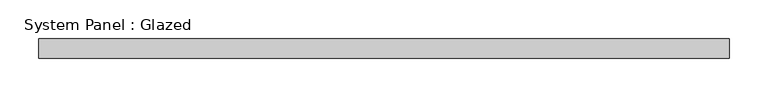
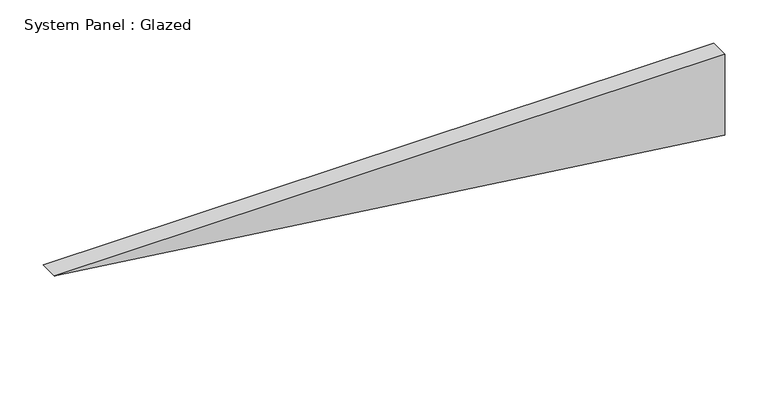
"""IFC4 building model written with IfcOpenShell, lengths in millimetres: plate geometry, System Panel : Glazed."""

from ifc_helpers import new_model, si_unit, frame, origin, place, context, project, spatial, polyline, outline, extrude, source, transform, mapped, element, save


def system_panel_glazed_91957de0(model_context):
    return source(origin(), model_context, "Body", "SweptSolid", [
        extrude(outline(polyline([(114.0402278, -447.0880872), (0.0, 447.0880872), (114.0402278, 447.0880872), (114.0402278, -447.0880872)])), frame((0.0, 19.05, 0.0), z_axis=(0.0, 1.0, 0.0), x_axis=(0.0, 0.0, 1.0)), (0.0, 0.0, 1.0), 25.4),
    ])


if __name__ == "__main__":
    model = new_model("IFC4")
    model_context = context("Model", 3, world=origin())
    ifc_project = project(units=[si_unit("LENGTHUNIT", "METRE", prefix="MILLI")], contexts=[model_context])
    site = spatial("IfcSite", under=ifc_project)
    building = spatial("IfcBuilding", under=site)
    placement = place(None, origin())
    system_panel_glazed_shape = system_panel_glazed_91957de0(model_context)
    element("IfcPlate", 1, ObjectType="System Panel : Glazed", at=placement, inside=building, context=model_context, shape_type="MappedRepresentation", body=[
        mapped(system_panel_glazed_shape, transform((0.0, 0.0, 0.0), x_axis=(1.0, 0.0, 0.0), y_axis=(0.0, 1.0, 0.0), z_axis=(0.0, 0.0, 1.0))),
    ])
    save(model, "model.ifc")
